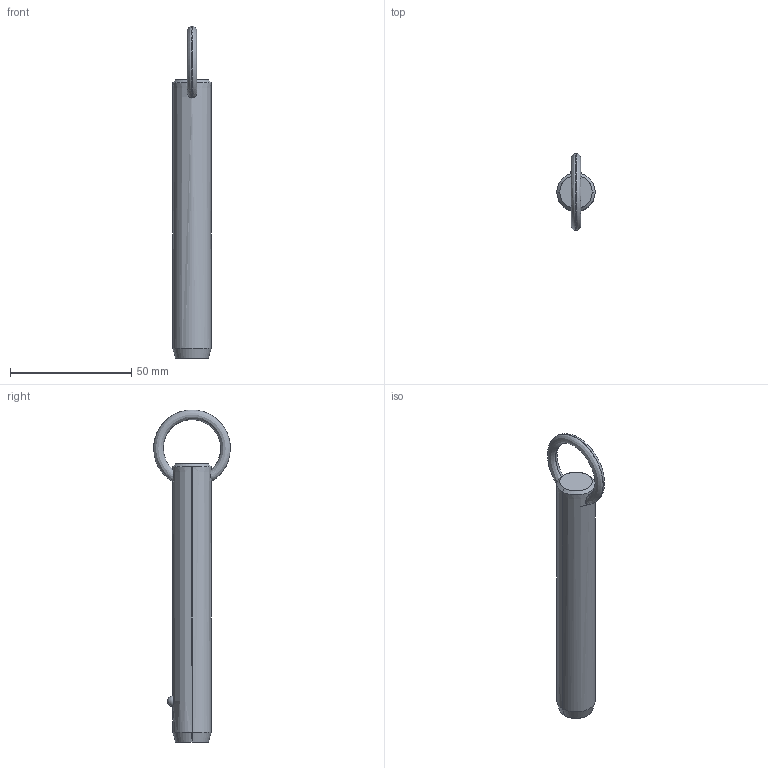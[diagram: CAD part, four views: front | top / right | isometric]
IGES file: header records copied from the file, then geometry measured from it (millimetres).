
Start section: SolidWorks IGES file using analytic representation for surfaces
Global section: file name: C:\Users\liam_\OneDrive\Documents\WORK\Work for WixRoyd\Job Files\J-00019 - Matt Davis CAD Checking\04. CAD Drawings\automotion20190605\P1250.2_v2\P1250.2_v2_20190729_IGES\P1250.062-340.igs; native system: SolidWorks 2017; preprocessor: SolidWorks 2017; author: liam_; date: 190729.233523; units: millimetre
Bounding box: 15.8 x 31.69 x 137.09 mm (x, y, z)
Surface area: 6877.2 mm2 (no closed solid volume)
Topology: 0 solids, 0 shells, 12 faces, 292 edges, 290 vertices
Faces by surface type: revolution 8, bspline 4
